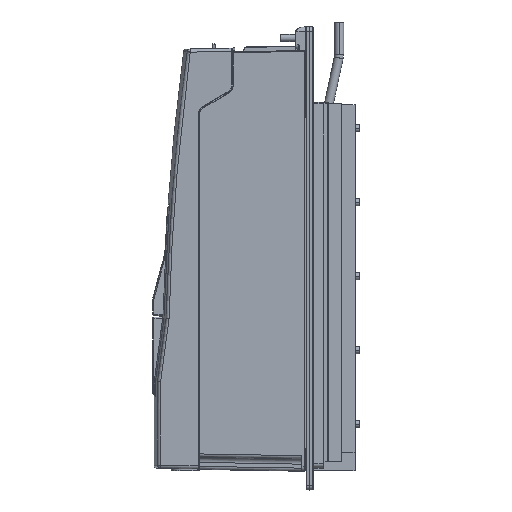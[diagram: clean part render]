
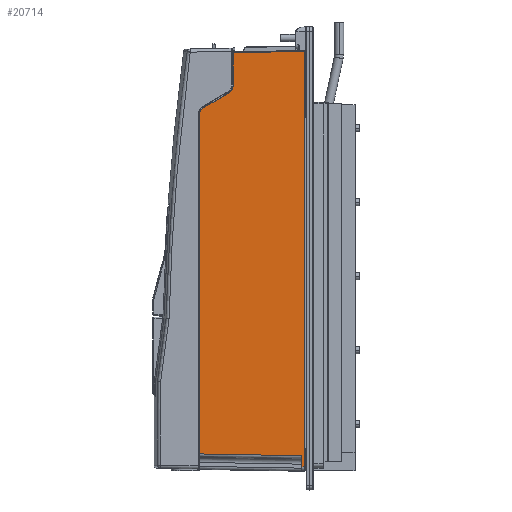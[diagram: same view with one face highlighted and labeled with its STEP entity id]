
A CAD part, left-side view. The second image highlights one B-rep face of the part: STEP entity #20714.
In plain terms, the highlighted planar face has unit normal (-1, 0.018, 0) as drawn and (1, 0.018, 0) by its records, which use the part's own axes.
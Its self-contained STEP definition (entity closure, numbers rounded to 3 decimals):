
#244 =( BOUNDED_CURVE ( )  B_SPLINE_CURVE ( 3, ( #62731, #38440, #5626, #37920 ),
 .UNSPECIFIED., .F., .T. ) 
 B_SPLINE_CURVE_WITH_KNOTS ( ( 4, 4 ),
 ( 2.094, 3.142 ),
 .UNSPECIFIED. ) 
 CURVE ( )  GEOMETRIC_REPRESENTATION_ITEM ( )  RATIONAL_B_SPLINE_CURVE ( ( 1., 0.911, 0.911, 1. ) ) 
 REPRESENTATION_ITEM ( '' )  );
#1317 = B_SPLINE_CURVE_WITH_KNOTS ( 'NONE', 3,
 ( #68966, #85317, #101116, #57286, #79507, #64143 ),
 .UNSPECIFIED., .F., .F.,
 ( 4, 2, 4 ),
 ( 0., 0.001, 0.002 ),
 .UNSPECIFIED. ) ;
#2896 = DIRECTION ( 'NONE',  ( -0.016, 0.866, 0.5 ) ) ;
#3020 = VECTOR ( 'NONE', #34143, 1000. ) ;
#3790 = CARTESIAN_POINT ( 'NONE',  ( 123.214, 4.804, 471. ) ) ;
#5045 = EDGE_CURVE ( 'NONE', #37193, #84228, #244, .T. ) ;
#5626 = CARTESIAN_POINT ( 'NONE',  ( 121.154, 119.804, 67.626 ) ) ;
#6199 = CARTESIAN_POINT ( 'NONE',  ( 123.269, 1.704, -0.542 ) ) ;
#7825 = CARTESIAN_POINT ( 'NONE',  ( 121.834, 81.804, 37.726 ) ) ;
#7826 = VERTEX_POINT ( 'NONE', #83711 ) ;
#7839 = CARTESIAN_POINT ( 'NONE',  ( 121.154, 119.804, 451.497 ) ) ;
#8410 = EDGE_CURVE ( 'NONE', #98751, #93373, #12476, .T. ) ;
#8646 = VECTOR ( 'NONE', #92532, 1000. ) ;
#10885 = EDGE_CURVE ( 'NONE', #67507, #70399, #25730, .T. ) ;
#10944 = EDGE_CURVE ( 'NONE', #97112, #7826, #74633, .T. ) ;
#11012 = EDGE_CURVE ( 'NONE', #86548, #70570, #20894, .T. ) ;
#12476 = LINE ( 'NONE', #75961, #42152 ) ;
#16074 = CARTESIAN_POINT ( 'NONE',  ( 121.241, 114.904, 62.726 ) ) ;
#17348 = EDGE_CURVE ( 'NONE', #70570, #65270, #1317, .T. ) ;
#20319 = CARTESIAN_POINT ( 'NONE',  ( 121.241, 114.901, 62.724 ) ) ;
#20714 = ADVANCED_FACE ( 'NONE', ( #75664 ), #60834, .F. ) ;
#20872 = DIRECTION ( 'NONE',  ( 0.018, -1., 0. ) ) ;
#20894 = LINE ( 'NONE', #61059, #91058 ) ;
#24307 = DIRECTION ( 'NONE',  ( 0., 0., -1. ) ) ;
#24719 = EDGE_CURVE ( 'NONE', #38204, #93373, #39616, .T. ) ;
#25443 = ORIENTED_EDGE ( 'NONE', *, *, #17348, .T. ) ;
#25730 = LINE ( 'NONE', #88186, #33782 ) ;
#26344 = CARTESIAN_POINT ( 'NONE',  ( 123.214, 4.804, 465.943 ) ) ;
#26368 = CARTESIAN_POINT ( 'NONE',  ( 121.834, 81.804, 37.726 ) ) ;
#28164 = ORIENTED_EDGE ( 'NONE', *, *, #89886, .T. ) ;
#28202 = ORIENTED_EDGE ( 'NONE', *, *, #11012, .T. ) ;
#30392 = ORIENTED_EDGE ( 'NONE', *, *, #78851, .F. ) ;
#32044 = CARTESIAN_POINT ( 'NONE',  ( 121.84, 81.5, 0.99 ) ) ;
#32077 = ORIENTED_EDGE ( 'NONE', *, *, #10885, .T. ) ;
#32253 = CARTESIAN_POINT ( 'NONE',  ( 123.207, 5.196, 453.497 ) ) ;
#33782 = VECTOR ( 'NONE', #54964, 1000. ) ;
#34143 = DIRECTION ( 'NONE',  ( 0., 0., 1. ) ) ;
#34208 = VECTOR ( 'NONE', #2896, 1000. ) ;
#37193 = VERTEX_POINT ( 'NONE', #16074 ) ;
#37920 = CARTESIAN_POINT ( 'NONE',  ( 121.154, 119.804, 71.213 ) ) ;
#38204 = VERTEX_POINT ( 'NONE', #57998 ) ;
#38440 = CARTESIAN_POINT ( 'NONE',  ( 121.186, 118.01, 64.519 ) ) ;
#39616 = LINE ( 'NONE', #81840, #59403 ) ;
#41102 = ORIENTED_EDGE ( 'NONE', *, *, #101982, .T. ) ;
#41783 = CARTESIAN_POINT ( 'NONE',  ( 121.154, 119.804, 71.213 ) ) ;
#42152 = VECTOR ( 'NONE', #92270, 1000. ) ;
#43100 = LINE ( 'NONE', #59492, #3020 ) ;
#43415 = DIRECTION ( 'NONE',  ( -1., -0.018, 0. ) ) ;
#44155 = DIRECTION ( 'NONE',  ( 0.018, -1., 0.017 ) ) ;
#47418 = ORIENTED_EDGE ( 'NONE', *, *, #10944, .T. ) ;
#52136 = EDGE_CURVE ( 'NONE', #70399, #98751, #96352, .T. ) ;
#54169 = CARTESIAN_POINT ( 'NONE',  ( 123.269, 1.704, 471. ) ) ;
#54964 = DIRECTION ( 'NONE',  ( 0.018, -1., 0.017 ) ) ;
#57286 = CARTESIAN_POINT ( 'NONE',  ( 123.213, 4.86, 454.589 ) ) ;
#57953 = CARTESIAN_POINT ( 'NONE',  ( 121.743, 86.904, 46.56 ) ) ;
#57998 = CARTESIAN_POINT ( 'NONE',  ( 121.84, 81.5, 37.726 ) ) ;
#59403 = VECTOR ( 'NONE', #24307, 1000. ) ;
#59492 = CARTESIAN_POINT ( 'NONE',  ( 121.154, 119.804, 471. ) ) ;
#60834 = PLANE ( 'NONE',  #93429 ) ;
#61059 = CARTESIAN_POINT ( 'NONE',  ( 123.212, 4.939, 453.502 ) ) ;
#62731 = CARTESIAN_POINT ( 'NONE',  ( 121.241, 114.904, 62.726 ) ) ;
#64143 = CARTESIAN_POINT ( 'NONE',  ( 123.214, 4.804, 455.156 ) ) ;
#64711 = ORIENTED_EDGE ( 'NONE', *, *, #24719, .F. ) ;
#65270 = VERTEX_POINT ( 'NONE', #90883 ) ;
#67507 = VERTEX_POINT ( 'NONE', #26344 ) ;
#68966 = CARTESIAN_POINT ( 'NONE',  ( 123.207, 5.196, 453.497 ) ) ;
#69477 = LINE ( 'NONE', #20319, #34208 ) ;
#70399 = VERTEX_POINT ( 'NONE', #98869 ) ;
#70521 = CARTESIAN_POINT ( 'NONE',  ( 121.15, 120., 37.726 ) ) ;
#70570 = VERTEX_POINT ( 'NONE', #32253 ) ;
#71068 = EDGE_CURVE ( 'NONE', #7826, #37193, #69477, .T. ) ;
#72128 = VECTOR ( 'NONE', #20872, 1000. ) ;
#74345 = CARTESIAN_POINT ( 'NONE',  ( 121.801, 83.67, 44.693 ) ) ;
#74633 =( BOUNDED_CURVE ( )  B_SPLINE_CURVE ( 3, ( #7825, #104007, #74345, #57953 ),
 .UNSPECIFIED., .F., .T. ) 
 B_SPLINE_CURVE_WITH_KNOTS ( ( 4, 4 ),
 ( 0., 1.047 ),
 .UNSPECIFIED. ) 
 CURVE ( )  GEOMETRIC_REPRESENTATION_ITEM ( )  RATIONAL_B_SPLINE_CURVE ( ( 1., 0.911, 0.911, 1. ) ) 
 REPRESENTATION_ITEM ( '' )  );
#75664 = FACE_OUTER_BOUND ( 'NONE', #82312, .T. ) ;
#75961 = CARTESIAN_POINT ( 'NONE',  ( 120.989, 129.004, 1.902 ) ) ;
#78851 = EDGE_CURVE ( 'NONE', #97112, #38204, #101649, .T. ) ;
#79507 = CARTESIAN_POINT ( 'NONE',  ( 123.214, 4.804, 454.869 ) ) ;
#81840 = CARTESIAN_POINT ( 'NONE',  ( 121.84, 81.5, 471. ) ) ;
#82312 = EDGE_LOOP ( 'NONE', ( #30392, #47418, #101778, #92079, #41102, #28202, #25443, #28164, #32077, #93558, #86849, #64711 ) ) ;
#83711 = CARTESIAN_POINT ( 'NONE',  ( 121.743, 86.904, 46.56 ) ) ;
#84228 = VERTEX_POINT ( 'NONE', #41783 ) ;
#85317 = CARTESIAN_POINT ( 'NONE',  ( 123.209, 5.102, 453.767 ) ) ;
#85641 = CARTESIAN_POINT ( 'NONE',  ( 121.15, 120., 471. ) ) ;
#86359 = DIRECTION ( 'NONE',  ( 0., 0., -1. ) ) ;
#86548 = VERTEX_POINT ( 'NONE', #7839 ) ;
#86849 = ORIENTED_EDGE ( 'NONE', *, *, #8410, .T. ) ;
#88186 = CARTESIAN_POINT ( 'NONE',  ( 123.275, 1.413, 466.002 ) ) ;
#89638 = VECTOR ( 'NONE', #86359, 1000. ) ;
#89886 = EDGE_CURVE ( 'NONE', #65270, #67507, #102009, .T. ) ;
#90883 = CARTESIAN_POINT ( 'NONE',  ( 123.214, 4.804, 455.156 ) ) ;
#91058 = VECTOR ( 'NONE', #44155, 1000. ) ;
#92079 = ORIENTED_EDGE ( 'NONE', *, *, #5045, .T. ) ;
#92270 = DIRECTION ( 'NONE',  ( -0.018, 1., 0.019 ) ) ;
#92532 = DIRECTION ( 'NONE',  ( 0., 0., 1. ) ) ;
#93373 = VERTEX_POINT ( 'NONE', #32044 ) ;
#93429 = AXIS2_PLACEMENT_3D ( 'NONE', #85641, #43415, #94076 ) ;
#93558 = ORIENTED_EDGE ( 'NONE', *, *, #52136, .T. ) ;
#94076 = DIRECTION ( 'NONE',  ( 0.018, -1., 0. ) ) ;
#96352 = LINE ( 'NONE', #54169, #89638 ) ;
#97112 = VERTEX_POINT ( 'NONE', #26368 ) ;
#98751 = VERTEX_POINT ( 'NONE', #6199 ) ;
#98869 = CARTESIAN_POINT ( 'NONE',  ( 123.269, 1.704, 465.997 ) ) ;
#101116 = CARTESIAN_POINT ( 'NONE',  ( 123.21, 5.009, 454.037 ) ) ;
#101649 = LINE ( 'NONE', #70521, #72128 ) ;
#101778 = ORIENTED_EDGE ( 'NONE', *, *, #71068, .T. ) ;
#101982 = EDGE_CURVE ( 'NONE', #84228, #86548, #43100, .T. ) ;
#102009 = LINE ( 'NONE', #3790, #8646 ) ;
#104007 = CARTESIAN_POINT ( 'NONE',  ( 121.834, 81.804, 41.46 ) ) ;
